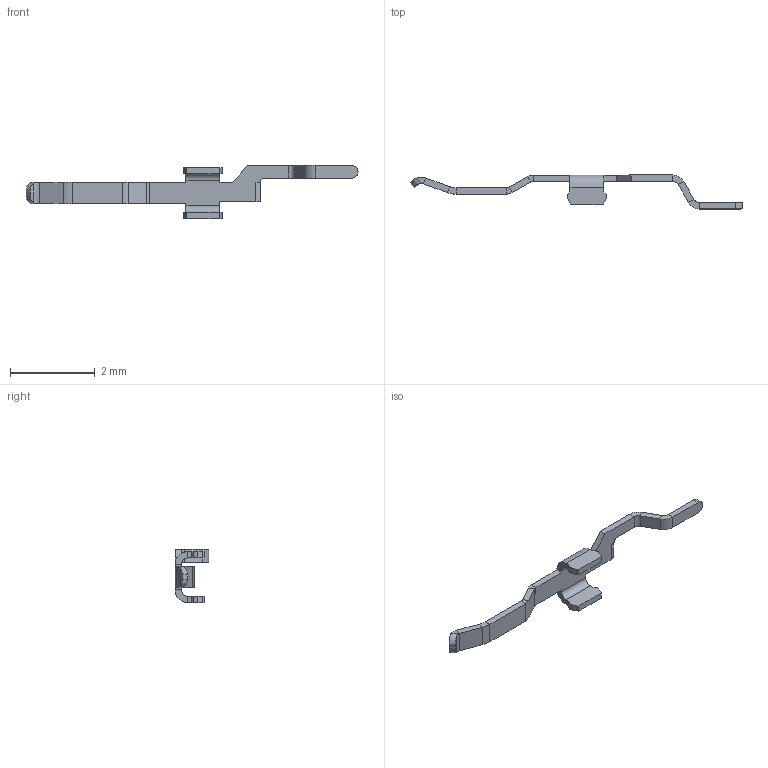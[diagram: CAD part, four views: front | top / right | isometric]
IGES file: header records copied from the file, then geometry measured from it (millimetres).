
Start section:  PTC IGES file: t-dsc20-500x00_2_prt.igs
Global section: file name: t-dsc20-500x00_2_prt.igs; native system: Pro/ENGINEER by Parametric Technology Corporation; preprocessor: 2006170; author: GRA; organization: Unknown; date: 20080630.105214; units: millimetre
Bounding box: 7.81 x 0.8 x 1.25 mm (x, y, z)
Surface area: 13.2 mm2 (no closed solid volume)
Topology: 0 solids, 0 shells, 102 faces, 478 edges, 478 vertices
Faces by surface type: bspline 78, revolution 24
